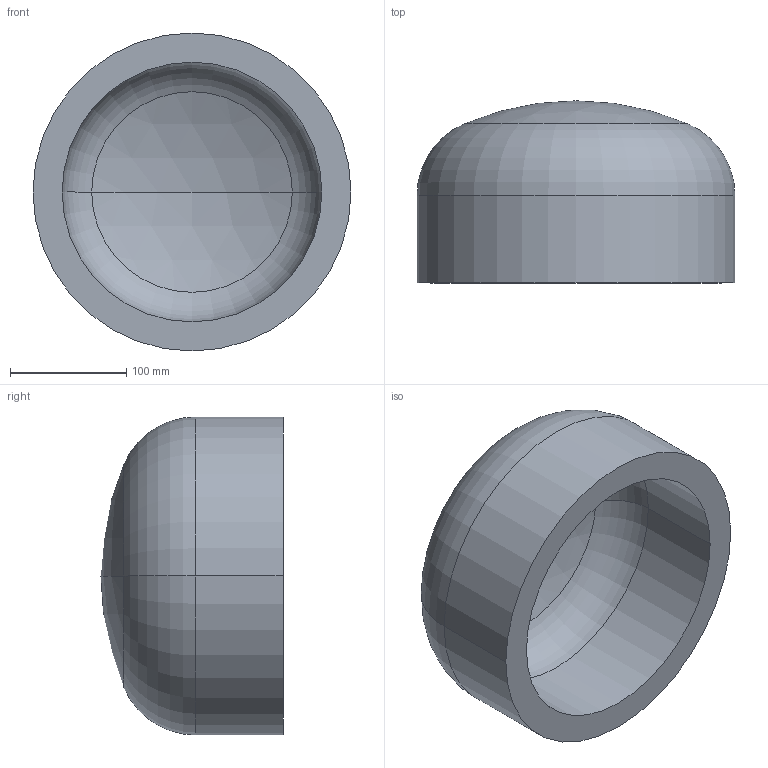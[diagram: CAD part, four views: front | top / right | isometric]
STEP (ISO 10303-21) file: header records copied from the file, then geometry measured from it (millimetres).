
FILE_DESCRIPTION (( 'STEP AP203' ), '1' );
FILE_NAME ('DIN 28013 Korbbogenform_-_Boden DIN 28013 - 273 x 75 - I - s=25.step', '2016-07-01T07:43:33', ( '' ), ( '' ), 'SwSTEP 2.0', 'SolidWorks 2013', '' );
FILE_SCHEMA (( 'CONFIG_CONTROL_DESIGN' ));
Length unit declared in the file: millimetre
Products named in the file (1): DIN 28013 Korbbogenform_-_Boden DIN 28013 - 273 x 75 - I - s=25
Bounding box: 273 x 156.3 x 273 mm (x, y, z)
Volume: 3268984.9 mm3; surface area: 282305.6 mm2
Topology: 1 solids, 1 shells, 13 faces, 24 edges, 14 vertices
Faces by surface type: torus 4, cylinder 4, sphere 4, plane 1
Entity records: 407 total; most frequent: DIRECTION 72, CARTESIAN_POINT 52, ORIENTED_EDGE 48, AXIS2_PLACEMENT_3D 34, EDGE_CURVE 24, CIRCLE 20, EDGE_LOOP 14, VERTEX_POINT 14
